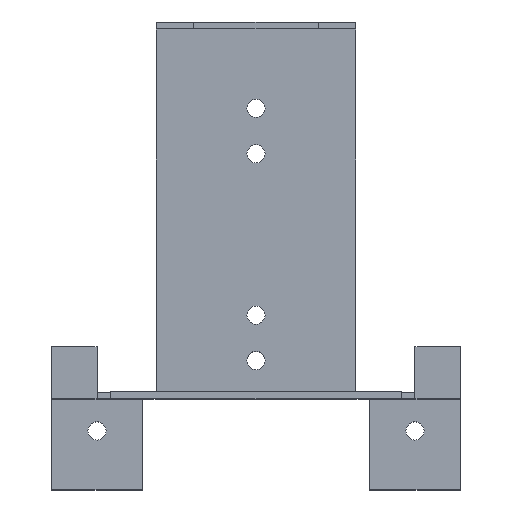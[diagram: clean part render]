
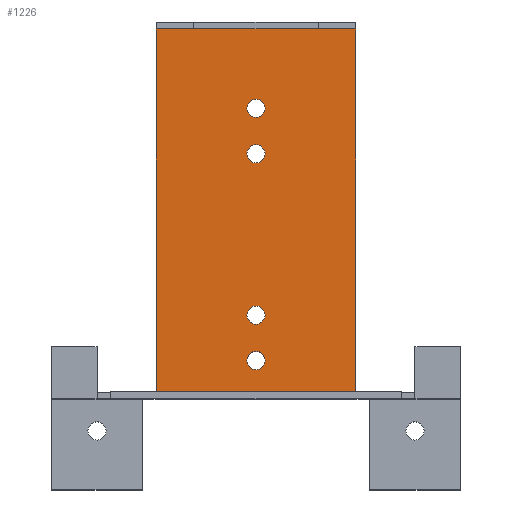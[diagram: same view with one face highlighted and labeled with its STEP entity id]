
A CAD part, top view. The second image highlights one B-rep face of the part: STEP entity #1226.
In plain terms, the highlighted planar face has unit normal (0, 0, 1).
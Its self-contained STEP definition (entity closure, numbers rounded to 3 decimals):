
#106 = VERTEX_POINT('',#107);
#107 = CARTESIAN_POINT('',(-2.,-33.,0.));
#125 = VERTEX_POINT('',#126);
#126 = CARTESIAN_POINT('',(2.,-33.,0.));
#132 = EDGE_CURVE('',#125,#106,#133,.T.);
#133 = CIRCLE('',#134,2.);
#134 = AXIS2_PLACEMENT_3D('',#135,#136,#137);
#135 = CARTESIAN_POINT('',(0.,-33.,0.));
#136 = DIRECTION('',(0.,0.,-1.));
#137 = DIRECTION('',(-1.,0.,0.));
#148 = VERTEX_POINT('',#149);
#149 = CARTESIAN_POINT('',(-2.,-23.,0.));
#167 = VERTEX_POINT('',#168);
#168 = CARTESIAN_POINT('',(2.,-23.,0.));
#174 = EDGE_CURVE('',#167,#148,#175,.T.);
#175 = CIRCLE('',#176,2.);
#176 = AXIS2_PLACEMENT_3D('',#177,#178,#179);
#177 = CARTESIAN_POINT('',(0.,-23.,0.));
#178 = DIRECTION('',(0.,0.,-1.));
#179 = DIRECTION('',(-1.,0.,0.));
#190 = VERTEX_POINT('',#191);
#191 = CARTESIAN_POINT('',(-2.,12.5,0.));
#209 = VERTEX_POINT('',#210);
#210 = CARTESIAN_POINT('',(2.,12.5,0.));
#216 = EDGE_CURVE('',#209,#190,#217,.T.);
#217 = CIRCLE('',#218,2.);
#218 = AXIS2_PLACEMENT_3D('',#219,#220,#221);
#219 = CARTESIAN_POINT('',(0.,12.5,0.));
#220 = DIRECTION('',(0.,0.,-1.));
#221 = DIRECTION('',(-1.,0.,0.));
#232 = VERTEX_POINT('',#233);
#233 = CARTESIAN_POINT('',(-2.,22.5,0.));
#251 = VERTEX_POINT('',#252);
#252 = CARTESIAN_POINT('',(2.,22.5,0.));
#258 = EDGE_CURVE('',#251,#232,#259,.T.);
#259 = CIRCLE('',#260,2.);
#260 = AXIS2_PLACEMENT_3D('',#261,#262,#263);
#261 = CARTESIAN_POINT('',(0.,22.5,0.));
#262 = DIRECTION('',(0.,0.,-1.));
#263 = DIRECTION('',(-1.,0.,0.));
#838 = VERTEX_POINT('',#839);
#839 = CARTESIAN_POINT('',(22.,-40.,-0.));
#845 = EDGE_CURVE('',#846,#838,#848,.T.);
#846 = VERTEX_POINT('',#847);
#847 = CARTESIAN_POINT('',(-22.,-40.,0.));
#848 = LINE('',#849,#850);
#849 = CARTESIAN_POINT('',(0.,-40.,0.));
#850 = VECTOR('',#851,1.);
#851 = DIRECTION('',(1.,0.,0.));
#1226 = ADVANCED_FACE('',(#1227,#1237,#1247,#1257,#1267),#1324,.F.);
#1227 = FACE_BOUND('',#1228,.T.);
#1228 = EDGE_LOOP('',(#1229,#1236));
#1229 = ORIENTED_EDGE('',*,*,#1230,.T.);
#1230 = EDGE_CURVE('',#106,#125,#1231,.T.);
#1231 = CIRCLE('',#1232,2.);
#1232 = AXIS2_PLACEMENT_3D('',#1233,#1234,#1235);
#1233 = CARTESIAN_POINT('',(0.,-33.,0.));
#1234 = DIRECTION('',(0.,0.,-1.));
#1235 = DIRECTION('',(-1.,0.,0.));
#1236 = ORIENTED_EDGE('',*,*,#132,.T.);
#1237 = FACE_BOUND('',#1238,.T.);
#1238 = EDGE_LOOP('',(#1239,#1246));
#1239 = ORIENTED_EDGE('',*,*,#1240,.T.);
#1240 = EDGE_CURVE('',#148,#167,#1241,.T.);
#1241 = CIRCLE('',#1242,2.);
#1242 = AXIS2_PLACEMENT_3D('',#1243,#1244,#1245);
#1243 = CARTESIAN_POINT('',(0.,-23.,0.));
#1244 = DIRECTION('',(0.,0.,-1.));
#1245 = DIRECTION('',(-1.,0.,0.));
#1246 = ORIENTED_EDGE('',*,*,#174,.T.);
#1247 = FACE_BOUND('',#1248,.T.);
#1248 = EDGE_LOOP('',(#1249,#1256));
#1249 = ORIENTED_EDGE('',*,*,#1250,.T.);
#1250 = EDGE_CURVE('',#190,#209,#1251,.T.);
#1251 = CIRCLE('',#1252,2.);
#1252 = AXIS2_PLACEMENT_3D('',#1253,#1254,#1255);
#1253 = CARTESIAN_POINT('',(0.,12.5,0.));
#1254 = DIRECTION('',(0.,0.,-1.));
#1255 = DIRECTION('',(-1.,0.,0.));
#1256 = ORIENTED_EDGE('',*,*,#216,.T.);
#1257 = FACE_BOUND('',#1258,.T.);
#1258 = EDGE_LOOP('',(#1259,#1266));
#1259 = ORIENTED_EDGE('',*,*,#1260,.T.);
#1260 = EDGE_CURVE('',#232,#251,#1261,.T.);
#1261 = CIRCLE('',#1262,2.);
#1262 = AXIS2_PLACEMENT_3D('',#1263,#1264,#1265);
#1263 = CARTESIAN_POINT('',(0.,22.5,0.));
#1264 = DIRECTION('',(0.,0.,-1.));
#1265 = DIRECTION('',(-1.,0.,0.));
#1266 = ORIENTED_EDGE('',*,*,#258,.T.);
#1267 = FACE_BOUND('',#1268,.T.);
#1268 = EDGE_LOOP('',(#1269,#1279,#1285,#1286,#1294,#1302,#1310,#1318));
#1269 = ORIENTED_EDGE('',*,*,#1270,.T.);
#1270 = EDGE_CURVE('',#1271,#1273,#1275,.T.);
#1271 = VERTEX_POINT('',#1272);
#1272 = CARTESIAN_POINT('',(-22.,39.4,0.));
#1273 = VERTEX_POINT('',#1274);
#1274 = CARTESIAN_POINT('',(-22.,-39.4,0.));
#1275 = LINE('',#1276,#1277);
#1276 = CARTESIAN_POINT('',(-22.,-41.5,0.));
#1277 = VECTOR('',#1278,1.);
#1278 = DIRECTION('',(-0.,-1.,-0.));
#1279 = ORIENTED_EDGE('',*,*,#1280,.T.);
#1280 = EDGE_CURVE('',#1273,#846,#1281,.T.);
#1281 = LINE('',#1282,#1283);
#1282 = CARTESIAN_POINT('',(-22.,-39.4,0.));
#1283 = VECTOR('',#1284,1.);
#1284 = DIRECTION('',(0.,-1.,0.));
#1285 = ORIENTED_EDGE('',*,*,#845,.T.);
#1286 = ORIENTED_EDGE('',*,*,#1287,.F.);
#1287 = EDGE_CURVE('',#1288,#838,#1290,.T.);
#1288 = VERTEX_POINT('',#1289);
#1289 = CARTESIAN_POINT('',(22.,-39.4,0.));
#1290 = LINE('',#1291,#1292);
#1291 = CARTESIAN_POINT('',(22.,0.,-0.));
#1292 = VECTOR('',#1293,1.);
#1293 = DIRECTION('',(-0.,-1.,-0.));
#1294 = ORIENTED_EDGE('',*,*,#1295,.T.);
#1295 = EDGE_CURVE('',#1288,#1296,#1298,.T.);
#1296 = VERTEX_POINT('',#1297);
#1297 = CARTESIAN_POINT('',(22.,39.4,0.));
#1298 = LINE('',#1299,#1300);
#1299 = CARTESIAN_POINT('',(22.,-41.5,0.));
#1300 = VECTOR('',#1301,1.);
#1301 = DIRECTION('',(0.,1.,0.));
#1302 = ORIENTED_EDGE('',*,*,#1303,.T.);
#1303 = EDGE_CURVE('',#1296,#1304,#1306,.T.);
#1304 = VERTEX_POINT('',#1305);
#1305 = CARTESIAN_POINT('',(22.,40.,0.));
#1306 = LINE('',#1307,#1308);
#1307 = CARTESIAN_POINT('',(22.,39.4,0.));
#1308 = VECTOR('',#1309,1.);
#1309 = DIRECTION('',(-0.,1.,0.));
#1310 = ORIENTED_EDGE('',*,*,#1311,.T.);
#1311 = EDGE_CURVE('',#1304,#1312,#1314,.T.);
#1312 = VERTEX_POINT('',#1313);
#1313 = CARTESIAN_POINT('',(-22.,40.,-0.));
#1314 = LINE('',#1315,#1316);
#1315 = CARTESIAN_POINT('',(0.,40.,0.));
#1316 = VECTOR('',#1317,1.);
#1317 = DIRECTION('',(-1.,-0.,-0.));
#1318 = ORIENTED_EDGE('',*,*,#1319,.F.);
#1319 = EDGE_CURVE('',#1271,#1312,#1320,.T.);
#1320 = LINE('',#1321,#1322);
#1321 = CARTESIAN_POINT('',(-22.,0.,-0.));
#1322 = VECTOR('',#1323,1.);
#1323 = DIRECTION('',(-0.,1.,-0.));
#1324 = PLANE('',#1325);
#1325 = AXIS2_PLACEMENT_3D('',#1326,#1327,#1328);
#1326 = CARTESIAN_POINT('',(0.,0.,0.));
#1327 = DIRECTION('',(0.,0.,-1.));
#1328 = DIRECTION('',(-1.,0.,-0.));
